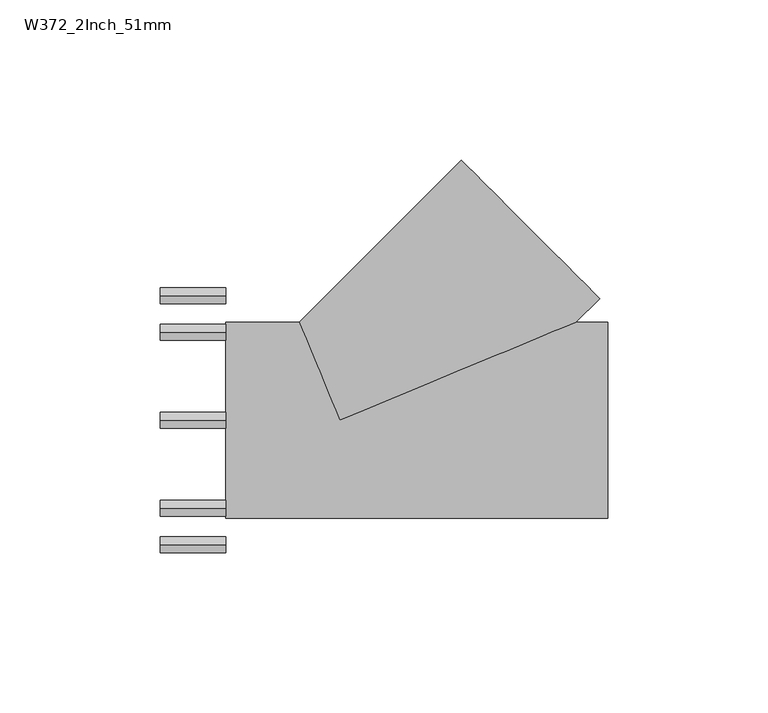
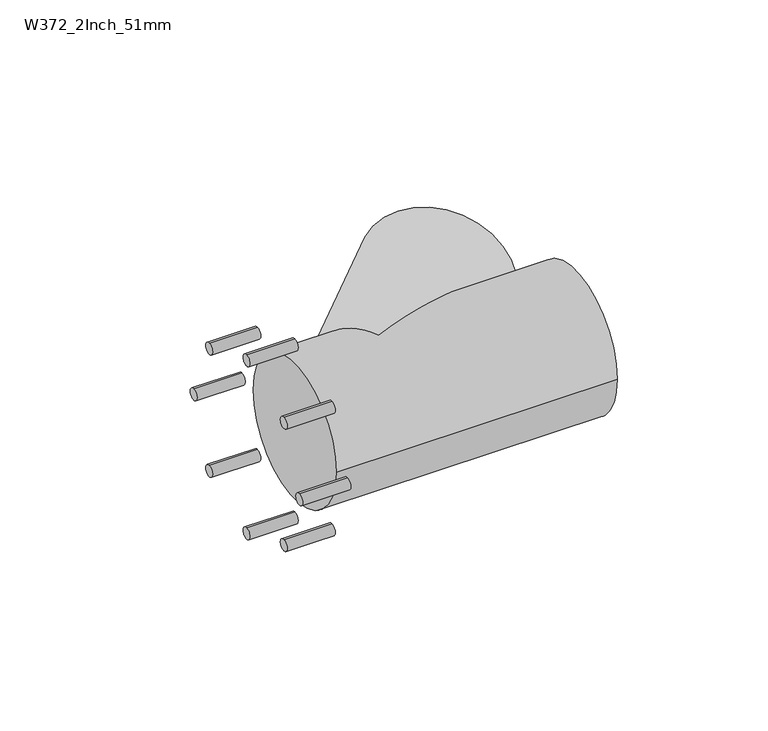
"""IFC4 building model written with IfcOpenShell, lengths in millimetres: pipe fitting geometry, Durapipe_PipeFitting_VulcatheneMechanical_SingleWye_W37 : W372_2Inch_51mm."""

from ifc_helpers import new_model, si_unit, point, frame, frame_2d, origin, place, context, project, spatial, circle_curve, ellipse_curve, trimmed, segment, composite_curve, outline, extrude, source, transform, mapped, element, save
from ifc_brep_helpers import plane_surface, cylinder_surface, advanced_brep


def w372_2inch_51mm_12b9c9e0(model_context):
    return source(origin(), model_context, "Body", "SolidModel", [
        extrude(outline(composite_curve([segment(trimmed(circle_curve(frame_2d((-38.8, 0.0)), 2.5), [point((-38.8, -2.5))], [point((-38.8, 2.5))], False, "CARTESIAN"), True, "CONTINUOUS"), segment(trimmed(circle_curve(frame_2d((-38.8, 0.0)), 2.5), [point((-38.8, 2.5))], [point((-38.8, -2.5))], False, "CARTESIAN"), True, "CONTINUOUS")], self_intersect=False)), frame((-56.0, 0.0, 0.0), z_axis=(1.0, 0.0, 0.0), x_axis=(0.0, 1.0, 0.0)), (0.0, 0.0, 1.0), 20.4),
        extrude(outline(composite_curve([segment(trimmed(circle_curve(frame_2d((-27.4357431, 27.4357431)), 2.5), [point((-27.4357431, 24.9357431))], [point((-27.4357431, 29.9357431))], False, "CARTESIAN"), True, "CONTINUOUS"), segment(trimmed(circle_curve(frame_2d((-27.4357431, 27.4357431)), 2.5), [point((-27.4357431, 29.9357431))], [point((-27.4357431, 24.9357431))], False, "CARTESIAN"), True, "CONTINUOUS")], self_intersect=False)), frame((-56.0, 0.0, 0.0), z_axis=(1.0, 0.0, 0.0), x_axis=(0.0, 1.0, 0.0)), (0.0, 0.0, 1.0), 20.4),
        extrude(outline(composite_curve([segment(trimmed(circle_curve(frame_2d((0.0, 38.8)), 2.5), [point((0.0, 36.3))], [point((0.0, 41.3))], False, "CARTESIAN"), True, "CONTINUOUS"), segment(trimmed(circle_curve(frame_2d((0.0, 38.8)), 2.5), [point((0.0, 41.3))], [point((0.0, 36.3))], False, "CARTESIAN"), True, "CONTINUOUS")], self_intersect=False)), frame((-56.0, 0.0, 0.0), z_axis=(1.0, 0.0, 0.0), x_axis=(0.0, 1.0, 0.0)), (0.0, 0.0, 1.0), 20.4),
        extrude(outline(composite_curve([segment(trimmed(circle_curve(frame_2d((27.4357431, 27.4357431)), 2.5), [point((27.4357431, 24.9357431))], [point((27.4357431, 29.9357431))], False, "CARTESIAN"), True, "CONTINUOUS"), segment(trimmed(circle_curve(frame_2d((27.4357431, 27.4357431)), 2.5), [point((27.4357431, 29.9357431))], [point((27.4357431, 24.9357431))], False, "CARTESIAN"), True, "CONTINUOUS")], self_intersect=False)), frame((-56.0, 0.0, 0.0), z_axis=(1.0, 0.0, 0.0), x_axis=(0.0, 1.0, 0.0)), (0.0, 0.0, 1.0), 20.4),
        extrude(outline(composite_curve([segment(trimmed(circle_curve(frame_2d((38.8, 0.0)), 2.5), [point((38.8, -2.5))], [point((38.8, 2.5))], False, "CARTESIAN"), True, "CONTINUOUS"), segment(trimmed(circle_curve(frame_2d((38.8, 0.0)), 2.5), [point((38.8, 2.5))], [point((38.8, -2.5))], False, "CARTESIAN"), True, "CONTINUOUS")], self_intersect=False)), frame((-56.0, 0.0, 0.0), z_axis=(1.0, 0.0, 0.0), x_axis=(0.0, 1.0, 0.0)), (0.0, 0.0, 1.0), 20.4),
        extrude(outline(composite_curve([segment(trimmed(circle_curve(frame_2d((27.4357431, -27.4357431)), 2.5), [point((27.4357431, -29.9357431))], [point((27.4357431, -24.9357431))], False, "CARTESIAN"), True, "CONTINUOUS"), segment(trimmed(circle_curve(frame_2d((27.4357431, -27.4357431)), 2.5), [point((27.4357431, -24.9357431))], [point((27.4357431, -29.9357431))], False, "CARTESIAN"), True, "CONTINUOUS")], self_intersect=False)), frame((-56.0, 0.0, 0.0), z_axis=(1.0, 0.0, 0.0), x_axis=(0.0, 1.0, 0.0)), (0.0, 0.0, 1.0), 20.4),
        extrude(outline(composite_curve([segment(trimmed(circle_curve(frame_2d((0.0, -38.8)), 2.5), [point((0.0, -41.3))], [point((0.0, -36.3))], False, "CARTESIAN"), True, "CONTINUOUS"), segment(trimmed(circle_curve(frame_2d((0.0, -38.8)), 2.5), [point((0.0, -36.3))], [point((0.0, -41.3))], False, "CARTESIAN"), True, "CONTINUOUS")], self_intersect=False)), frame((-56.0, 0.0, 0.0), z_axis=(1.0, 0.0, 0.0), x_axis=(0.0, 1.0, 0.0)), (0.0, 0.0, 1.0), 20.4),
        extrude(outline(composite_curve([segment(trimmed(circle_curve(frame_2d((-27.4357431, -27.4357431)), 2.5), [point((-27.4357431, -29.9357431))], [point((-27.4357431, -24.9357431))], False, "CARTESIAN"), True, "CONTINUOUS"), segment(trimmed(circle_curve(frame_2d((-27.4357431, -27.4357431)), 2.5), [point((-27.4357431, -24.9357431))], [point((-27.4357431, -29.9357431))], False, "CARTESIAN"), True, "CONTINUOUS")], self_intersect=False)), frame((-56.0, 0.0, 0.0), z_axis=(1.0, 0.0, 0.0), x_axis=(0.0, 1.0, 0.0)), (0.0, 0.0, 1.0), 20.4),
        advanced_brep(
        [(-35.6, 30.5, 0.0), (-35.6, -30.5, 0.0), (83.6, 30.5, 0.0), (83.6, -30.5, 0.0), (73.6335137, 30.5, 0.0), (0.0, 0.0, 30.5), (-12.6335137, 30.5, 0.0), (0.0, 0.0, -30.5), (37.9716341, 81.1051478, 0.0), (81.1051478, 37.9716341, 0.0)],
        [
            (0, 1, circle_curve(frame((-35.6, 0.0, 0.0), z_axis=(-1.0, 0.0, 0.0), x_axis=(0.0, -1.0, 0.0)), 30.5)),
            (1, 0, circle_curve(frame((-35.6, 0.0, 0.0), z_axis=(-1.0, 0.0, 0.0), x_axis=(0.0, -1.0, 0.0)), 30.5)),
            (2, 3, circle_curve(frame((83.6, 0.0, 0.0), z_axis=(1.0, 0.0, 0.0), x_axis=(0.0, -1.0, 0.0)), 30.5)),
            (3, 2, circle_curve(frame((83.6, 0.0, 0.0), z_axis=(1.0, 0.0, 0.0), x_axis=(0.0, -1.0, 0.0)), 30.5)),
            (1, 3),
            (2, 4),
            (4, 5, ellipse_curve(frame((0.0, 0.0, 0.0), z_axis=(0.3826834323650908, -0.9238795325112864, 0.0), x_axis=(-0.9238795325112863, -0.38268343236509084, 0.0)), 79.7003409, 30.5)),
            (5, 6, ellipse_curve(frame((0.0, 0.0, 0.0), z_axis=(-0.9238795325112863, -0.3826834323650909, 0.0), x_axis=(-0.3826834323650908, 0.9238795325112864, 0.0)), 33.0129621, 30.5)),
            (6, 0),
            (6, 7, ellipse_curve(frame((0.0, 0.0, 0.0), z_axis=(-0.9238795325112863, -0.3826834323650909, 0.0), x_axis=(-0.3826834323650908, 0.9238795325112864, 0.0)), 33.0129621, 30.5)),
            (7, 4, ellipse_curve(frame((0.0, 0.0, 0.0), z_axis=(0.3826834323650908, -0.9238795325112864, 0.0), x_axis=(-0.9238795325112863, -0.38268343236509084, 0.0)), 79.7003409, 30.5)),
            (8, 9, circle_curve(frame((59.538391, 59.538391, 0.0), z_axis=(0.7071067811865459, 0.7071067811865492, 0.0), x_axis=(0.7071067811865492, -0.7071067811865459, 0.0)), 30.5)),
            (9, 8, circle_curve(frame((59.538391, 59.538391, 0.0), z_axis=(0.7071067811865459, 0.7071067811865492, 0.0), x_axis=(0.7071067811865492, -0.7071067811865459, 0.0)), 30.5)),
            (8, 6),
            (4, 9),
        ],
        [
            plane_surface(frame((-35.6, 0.0, 0.0), z_axis=(-1.0, 0.0, 0.0), x_axis=(0.0, 0.0, 1.0))),
            plane_surface(frame((83.6, 0.0, 0.0), z_axis=(1.0, 0.0, 0.0), x_axis=(0.0, 0.0, 1.0))),
            cylinder_surface(frame((-35.6, 0.0, 0.0), z_axis=(-1.0, 0.0, 0.0), x_axis=(0.0, -1.0, 0.0)), 30.5),
            plane_surface(frame((59.538391, 59.538391, 0.0), z_axis=(0.7071067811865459, 0.7071067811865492, 0.0), x_axis=(0.0, 0.0, 1.0))),
            cylinder_surface(frame((0.0, 0.0, 0.0), z_axis=(-0.7071067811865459, -0.7071067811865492, 0.0), x_axis=(0.7071067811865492, -0.7071067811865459, 0.0)), 30.5),
        ],
        [
            (0, [[1, 2]]),
            (1, [[3, 4]]),
            (2, [[5, -3, 6, 7, 8, 9, -2]]),
            (2, [[-9, 10, 11, -6, -4, -5, -1]]),
            (3, [[12, 13]]),
            (4, [[14, -8, -7, 15, -12]]),
            (4, [[-15, -11, -10, -14, -13]]),
        ],
    ),
    ])


if __name__ == "__main__":
    model = new_model("IFC4")
    model_context = context("Model", 3, world=origin())
    ifc_project = project(units=[si_unit("LENGTHUNIT", "METRE", prefix="MILLI")], contexts=[model_context])
    site = spatial("IfcSite", under=ifc_project)
    building = spatial("IfcBuilding", under=site)
    placement = place(None, origin())
    w372_2inch_51mm_shape = w372_2inch_51mm_12b9c9e0(model_context)
    element("IfcPipeFitting", 1, ObjectType="Durapipe_PipeFitting_VulcatheneMechanical_SingleWye_W37 : W372_2Inch_51mm", at=placement, inside=building, context=model_context, shape_type="MappedRepresentation", body=[
        mapped(w372_2inch_51mm_shape, transform((0.0, 0.0, 0.0), x_axis=(1.0, 0.0, 0.0), y_axis=(0.0, 1.0, 0.0), z_axis=(0.0, 0.0, 1.0))),
    ])
    save(model, "model.ifc")
